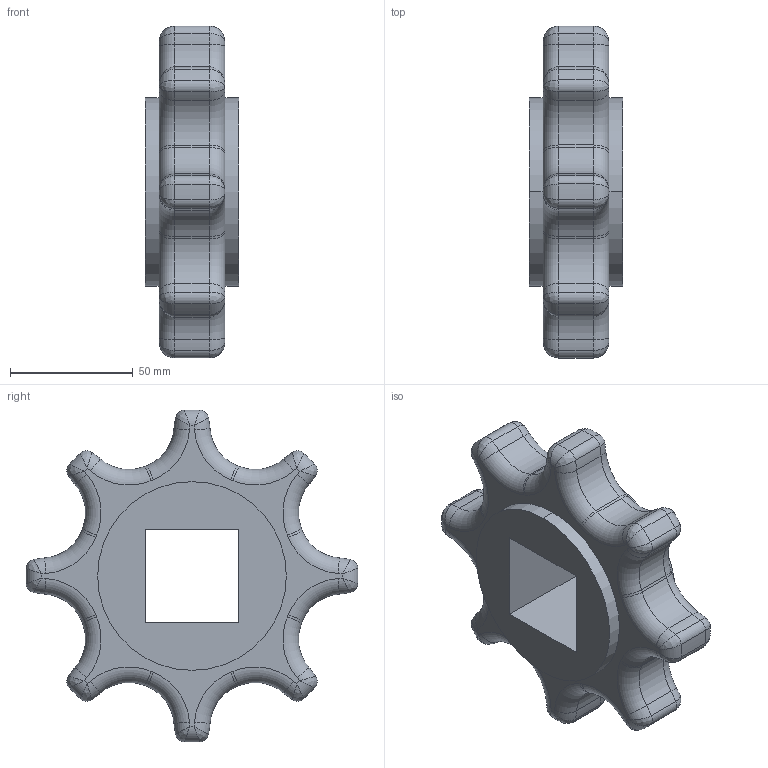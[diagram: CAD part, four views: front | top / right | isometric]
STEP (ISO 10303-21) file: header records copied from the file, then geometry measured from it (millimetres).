
FILE_DESCRIPTION((''),'2;1');
FILE_NAME('S3000_SPROCKET_52X15_40_SQ','2008-12-12T',('jmumphre'),(''),'PRO/ENGINEER BY PARAMETRIC TECHNOLOGY CORPORATION, 2008150','PRO/ENGINEER BY PARAMETRIC TECHNOLOGY CORPORATION, 2008150','');
FILE_SCHEMA(('CONFIG_CONTROL_DESIGN'));
Length unit declared in the file: inch
Products named in the file (1): S3000_SPROCKET_52X15_40_SQ
Bounding box: 38.1 x 135.33 x 135.33 mm (x, y, z)
Volume: 258063.2 mm3; surface area: 36861.2 mm2
Topology: 1 solids, 1 shells, 204 faces, 440 edges, 240 vertices
Faces by surface type: torus 80, cylinder 76, bspline 32, plane 16
Entity records: 7512 total; most frequent: CARTESIAN_POINT 3140, DIRECTION 984, ORIENTED_EDGE 880, EDGE_CURVE 440, AXIS2_PLACEMENT_3D 436, CIRCLE 264, VERTEX_POINT 240, EDGE_LOOP 208
